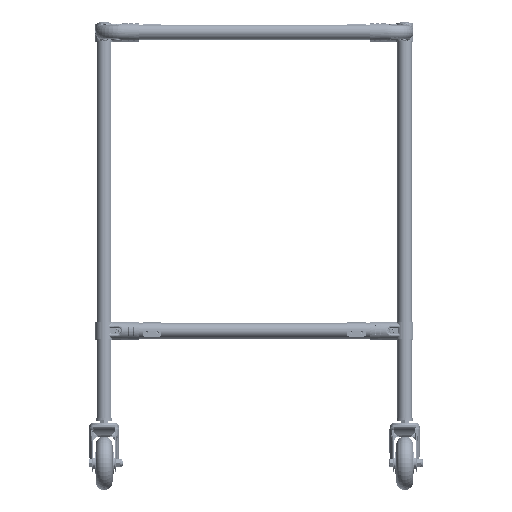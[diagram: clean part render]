
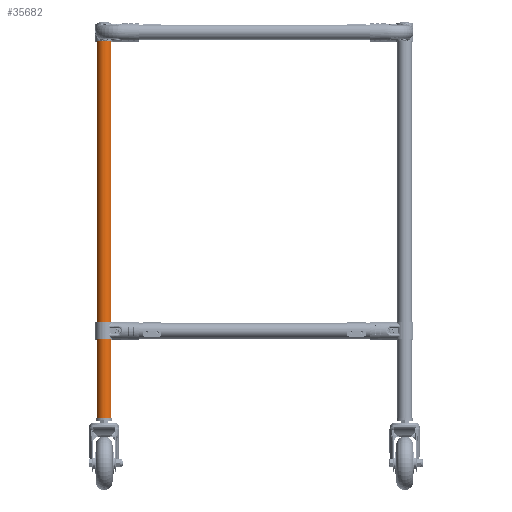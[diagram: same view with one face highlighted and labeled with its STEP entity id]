
A CAD part, top view. The second image highlights one B-rep face of the part: STEP entity #35682.
In plain terms, the highlighted cylindrical face has radius 14 mm (diameter 28 mm), a partial arc.
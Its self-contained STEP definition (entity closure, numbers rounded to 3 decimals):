
#4516 = DIRECTION ( 'NONE',  ( 0., 0., 1. ) ) ;
#4926 = VERTEX_POINT ( 'NONE', #91320 ) ;
#6977 = CIRCLE ( 'NONE', #77803, 14. ) ;
#7704 = CARTESIAN_POINT ( 'NONE',  ( 14., 0., 375. ) ) ;
#9810 = CARTESIAN_POINT ( 'NONE',  ( -14., 0., 375. ) ) ;
#10384 = CARTESIAN_POINT ( 'NONE',  ( -14., 0., 375. ) ) ;
#11199 = ORIENTED_EDGE ( 'NONE', *, *, #57995, .F. ) ;
#17389 = VECTOR ( 'NONE', #62553, 1000. ) ;
#20853 = DIRECTION ( 'NONE',  ( 1., 0., 0. ) ) ;
#22570 = VERTEX_POINT ( 'NONE', #9810 ) ;
#24064 = EDGE_CURVE ( 'NONE', #22570, #39631, #90621, .T. ) ;
#27527 = AXIS2_PLACEMENT_3D ( 'NONE', #84245, #4516, #20853 ) ;
#35682 = ADVANCED_FACE ( 'NONE', ( #68425 ), #100713, .T. ) ;
#35845 = AXIS2_PLACEMENT_3D ( 'NONE', #83263, #52576, #39340 ) ;
#38779 = LINE ( 'NONE', #7704, #17389 ) ;
#39340 = DIRECTION ( 'NONE',  ( -1., 0., 0. ) ) ;
#39631 = VERTEX_POINT ( 'NONE', #49766 ) ;
#40901 = DIRECTION ( 'NONE',  ( 0., 0., 1. ) ) ;
#41921 = CARTESIAN_POINT ( 'NONE',  ( 0., 0., -375. ) ) ;
#42535 = DIRECTION ( 'NONE',  ( 0., 0., -1. ) ) ;
#47981 = VERTEX_POINT ( 'NONE', #95800 ) ;
#49766 = CARTESIAN_POINT ( 'NONE',  ( -14., 0., -375. ) ) ;
#52576 = DIRECTION ( 'NONE',  ( 0., 0., -1. ) ) ;
#57206 = EDGE_CURVE ( 'NONE', #4926, #47981, #38779, .T. ) ;
#57995 = EDGE_CURVE ( 'NONE', #22570, #4926, #98361, .T. ) ;
#62553 = DIRECTION ( 'NONE',  ( 0., 0., -1. ) ) ;
#66215 = DIRECTION ( 'NONE',  ( 1., 0., 0. ) ) ;
#66968 = EDGE_LOOP ( 'NONE', ( #92418, #11199, #100442, #82798 ) ) ;
#68425 = FACE_OUTER_BOUND ( 'NONE', #66968, .T. ) ;
#68538 = EDGE_CURVE ( 'NONE', #39631, #47981, #6977, .T. ) ;
#77803 = AXIS2_PLACEMENT_3D ( 'NONE', #41921, #40901, #66215 ) ;
#82798 = ORIENTED_EDGE ( 'NONE', *, *, #68538, .T. ) ;
#83263 = CARTESIAN_POINT ( 'NONE',  ( 0., 0., 375. ) ) ;
#84245 = CARTESIAN_POINT ( 'NONE',  ( 0., 0., 375. ) ) ;
#90621 = LINE ( 'NONE', #10384, #94568 ) ;
#91320 = CARTESIAN_POINT ( 'NONE',  ( 14., 0., 375. ) ) ;
#92418 = ORIENTED_EDGE ( 'NONE', *, *, #57206, .F. ) ;
#94568 = VECTOR ( 'NONE', #42535, 1000. ) ;
#95800 = CARTESIAN_POINT ( 'NONE',  ( 14., 0., -375. ) ) ;
#98361 = CIRCLE ( 'NONE', #27527, 14. ) ;
#100442 = ORIENTED_EDGE ( 'NONE', *, *, #24064, .T. ) ;
#100713 = CYLINDRICAL_SURFACE ( 'NONE', #35845, 14. ) ;
